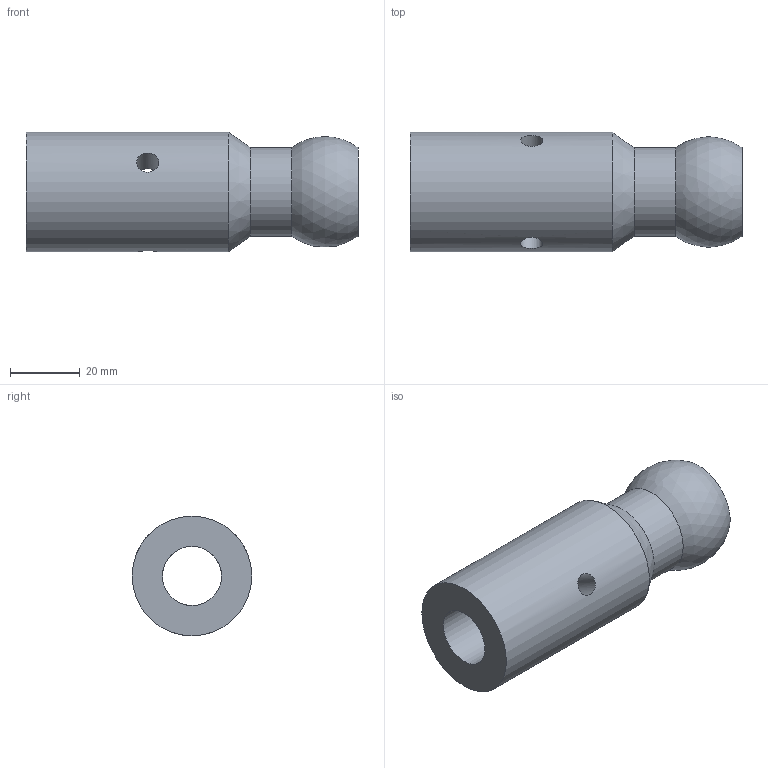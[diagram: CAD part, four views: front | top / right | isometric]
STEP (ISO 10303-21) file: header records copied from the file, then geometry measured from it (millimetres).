
FILE_DESCRIPTION( ( 'Unknown' ), '1' );
FILE_NAME( 'S:/A & P Tool/Start Button Swivel Mount/STP Files for Website/AFSB-8 18mm PROX SENSOR.stp', 'Unknown', ( 'Jorge Villegas' ), ( 'A&P' ), 'PSStep 14.0', 'Solid Edge', ' ' );
FILE_SCHEMA( ( 'AUTOMOTIVE_DESIGN { 1 0 10303 214 1 1 1 1 }' ) );
Length unit declared in the file: millimetre
Products named in the file (2): 1; 2
Bounding box: 95.25 x 34.29 x 34.29 mm (x, y, z)
Volume: 55090.3 mm3; surface area: 16201.7 mm2
Topology: 1 solids, 1 shells, 10 faces, 23 edges, 15 vertices
Faces by surface type: cylinder 6, plane 2, sphere 1, cone 1
Full cylindrical faces by diameter (mm): 6.35 x3, 16.917 x1, 25.4 x1, 34.29 x1
Entity records: 3948 total; most frequent: CARTESIAN_POINT 3011, EDGE_CURVE 224, VERTEX_POINT 224, B_SPLINE_CURVE_WITH_KNOTS 217, DIRECTION 38, EDGE_LOOP 26, ORIENTED_EDGE 26, AXIS2_PLACEMENT_3D 19
